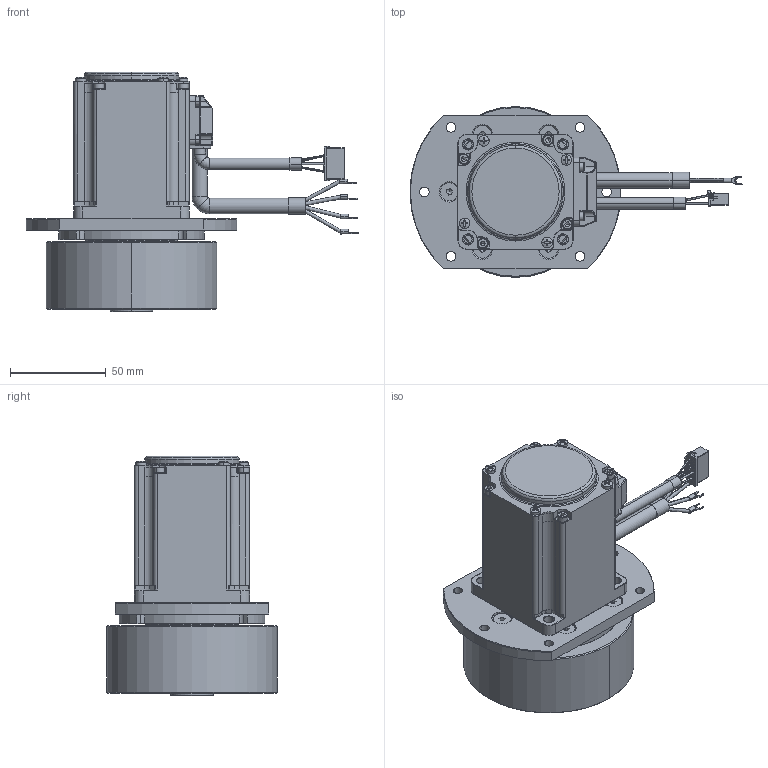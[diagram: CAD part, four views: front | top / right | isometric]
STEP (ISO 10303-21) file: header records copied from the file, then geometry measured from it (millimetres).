
FILE_DESCRIPTION((''),'2;1');
FILE_NAME('MSD90--040-30GSL-N_ASM','2026-05-28T14:31:42',('MS28159'),(''),'CREO PARAMETRIC BY PTC INC, 2018100','CREO PARAMETRIC BY PTC INC, 2018100','');
FILE_SCHEMA(('CONFIG_CONTROL_DESIGN'));
Length unit declared in the file: millimetre
Products named in the file (34): M5-10-10_10001_1_1; 060_10_JA214-021000001_1_1; M5-10-7-_10001_1_1; M5-10-11_10001_1_1; M5-10-12_10001_1_1; M5-10-8-_10001_1_1; 4394000102411_60SV0001_1_1; M5-10-9-_10001_1_1; NONE_1_2_1_1_2; 0226--1-SOLID1_1000_1_1; 60SV04302-0400K-045-GRX_X2_FF_1_ASM; ASM0009_ASM_1_1_ASM; M5_1000_1_1; 100_1_1; 3698201102700_60SV__X2_530580_2_ASM; 3698201102700_60SV0001_ASM_1_1_ASM; ASM0008_ASM_1_1_ASM; _1_-1-SOLID10001_1_1_2; 001-1-SOLID10001_1_1_2; _1_5016461600-1-SO0001_1_1_2; _1-SOLID10_1; _1_AGV-2-SOLID10001_1_1_2; CROSSRECESSEDCOUNT0004_1_1_2; CROSSRECESSEDCOUNT0005_1_1_2; CROSSRECESSEDCOUNT0006_1_1_2; _1_-1-SOLID10002_1_1_2; _1_AGV-1-SOLID10001_1_1_2; _1_AGV-3-SOLID10001_1_1_2; _1_--1-SOLID10001_1_1_2; _1_AGV-4-SOLID10001_1_1_2; _30001_1; 4611170005889_ASM_1_ASM; SM0602GSL-KCY-NNN-10_ASM; MSD90--040-30GSL-N_ASM
Assembly tree (33 placements, depth 5):
  MSD90--040-30GSL-N_ASM
    ASM0008_ASM_1_1_ASM
      ASM0009_ASM_1_1_ASM
        60SV04302-0400K-045-GRX_X2_FF_1_ASM
          M5-10-10_10001_1_1
          060_10_JA214-021000001_1_1
          M5-10-7-_10001_1_1
          M5-10-11_10001_1_1
          M5-10-12_10001_1_1
          M5-10-8-_10001_1_1
          4394000102411_60SV0001_1_1
          M5-10-9-_10001_1_1
          NONE_1_2_1_1_2
          0226--1-SOLID1_1000_1_1
      3698201102700_60SV0001_ASM_1_1_ASM
        3698201102700_60SV__X2_530580_2_ASM
          M5_1000_1_1
          100_1_1
    SM0602GSL-KCY-NNN-10_ASM
      4611170005889_ASM_1_ASM
        _1_-1-SOLID10001_1_1_2
        001-1-SOLID10001_1_1_2
        _1_5016461600-1-SO0001_1_1_2
        _1-SOLID10_1
        _1_AGV-2-SOLID10001_1_1_2
        CROSSRECESSEDCOUNT0004_1_1_2
        CROSSRECESSEDCOUNT0005_1_1_2
        CROSSRECESSEDCOUNT0006_1_1_2
        _1_-1-SOLID10002_1_1_2
        _1_AGV-1-SOLID10001_1_1_2
        _1_AGV-3-SOLID10001_1_1_2
        _1_--1-SOLID10001_1_1_2
        _1_AGV-4-SOLID10001_1_1_2
        _30001_1
Bounding box: 173.08 x 89 x 125 mm (x, y, z)
Volume: 504681.9 mm3; surface area: 143194.7 mm2
Topology: 26 solids, 58 shells, 2323 faces, 5886 edges, 3701 vertices
Faces by surface type: plane 1010, cylinder 755, torus 261, cone 195, sphere 54, bspline 30, extrusion 18
Entity records: 79699 total; most frequent: CARTESIAN_POINT 21874, DIRECTION 12661, ORIENTED_EDGE 11580, EDGE_CURVE 5790, AXIS2_PLACEMENT_3D 4861, VERTEX_POINT 3701, VECTOR 2939, LINE 2921
